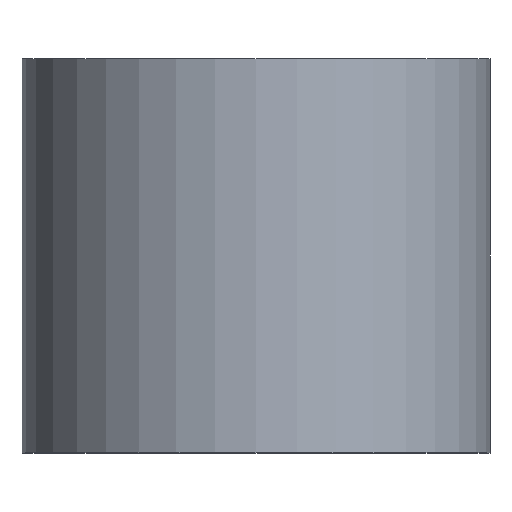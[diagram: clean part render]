
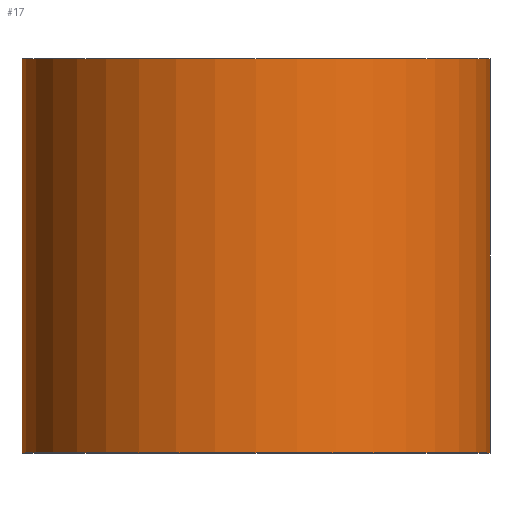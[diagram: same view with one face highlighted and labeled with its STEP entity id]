
A CAD part, top view. The second image highlights one B-rep face of the part: STEP entity #17.
In plain terms, the highlighted cylindrical face has radius 38 mm (diameter 76 mm), a full revolution.
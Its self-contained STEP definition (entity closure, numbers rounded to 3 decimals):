
#17 = ADVANCED_FACE('',(#18),#31,.T.);
#18 = FACE_BOUND('',#19,.T.);
#19 = EDGE_LOOP('',(#20,#54,#77,#104));
#20 = ORIENTED_EDGE('',*,*,#21,.F.);
#21 = EDGE_CURVE('',#22,#22,#24,.T.);
#22 = VERTEX_POINT('',#23);
#23 = CARTESIAN_POINT('',(38.,-32.,0.));
#24 = SURFACE_CURVE('',#25,(#30,#42),.PCURVE_S1.);
#25 = CIRCLE('',#26,38.);
#26 = AXIS2_PLACEMENT_3D('',#27,#28,#29);
#27 = CARTESIAN_POINT('',(0.,-32.,0.));
#28 = DIRECTION('',(0.,-1.,0.));
#29 = DIRECTION('',(1.,0.,0.));
#30 = PCURVE('',#31,#36);
#31 = CYLINDRICAL_SURFACE('',#32,38.);
#32 = AXIS2_PLACEMENT_3D('',#33,#34,#35);
#33 = CARTESIAN_POINT('',(0.,32.,0.));
#34 = DIRECTION('',(0.,-1.,0.));
#35 = DIRECTION('',(1.,0.,0.));
#36 = DEFINITIONAL_REPRESENTATION('',(#37),#41);
#37 = LINE('',#38,#39);
#38 = CARTESIAN_POINT('',(0.,64.));
#39 = VECTOR('',#40,1.);
#40 = DIRECTION('',(1.,0.));
#41 = ( GEOMETRIC_REPRESENTATION_CONTEXT(2) 
PARAMETRIC_REPRESENTATION_CONTEXT() REPRESENTATION_CONTEXT('2D SPACE',''
  ) );
#42 = PCURVE('',#43,#48);
#43 = PLANE('',#44);
#44 = AXIS2_PLACEMENT_3D('',#45,#46,#47);
#45 = CARTESIAN_POINT('',(0.,-32.,0.));
#46 = DIRECTION('',(0.,-1.,0.));
#47 = DIRECTION('',(1.,0.,0.));
#48 = DEFINITIONAL_REPRESENTATION('',(#49),#53);
#49 = CIRCLE('',#50,38.);
#50 = AXIS2_PLACEMENT_2D('',#51,#52);
#51 = CARTESIAN_POINT('',(0.,0.));
#52 = DIRECTION('',(1.,0.));
#53 = ( GEOMETRIC_REPRESENTATION_CONTEXT(2) 
PARAMETRIC_REPRESENTATION_CONTEXT() REPRESENTATION_CONTEXT('2D SPACE',''
  ) );
#54 = ORIENTED_EDGE('',*,*,#55,.F.);
#55 = EDGE_CURVE('',#56,#22,#58,.T.);
#56 = VERTEX_POINT('',#57);
#57 = CARTESIAN_POINT('',(38.,32.,0.));
#58 = SEAM_CURVE('',#59,(#63,#70),.PCURVE_S1.);
#59 = LINE('',#60,#61);
#60 = CARTESIAN_POINT('',(38.,32.,0.));
#61 = VECTOR('',#62,1.);
#62 = DIRECTION('',(0.,-1.,0.));
#63 = PCURVE('',#31,#64);
#64 = DEFINITIONAL_REPRESENTATION('',(#65),#69);
#65 = LINE('',#66,#67);
#66 = CARTESIAN_POINT('',(6.283,-0.));
#67 = VECTOR('',#68,1.);
#68 = DIRECTION('',(0.,1.));
#69 = ( GEOMETRIC_REPRESENTATION_CONTEXT(2) 
PARAMETRIC_REPRESENTATION_CONTEXT() REPRESENTATION_CONTEXT('2D SPACE',''
  ) );
#70 = PCURVE('',#31,#71);
#71 = DEFINITIONAL_REPRESENTATION('',(#72),#76);
#72 = LINE('',#73,#74);
#73 = CARTESIAN_POINT('',(0.,-0.));
#74 = VECTOR('',#75,1.);
#75 = DIRECTION('',(0.,1.));
#76 = ( GEOMETRIC_REPRESENTATION_CONTEXT(2) 
PARAMETRIC_REPRESENTATION_CONTEXT() REPRESENTATION_CONTEXT('2D SPACE',''
  ) );
#77 = ORIENTED_EDGE('',*,*,#78,.T.);
#78 = EDGE_CURVE('',#56,#56,#79,.T.);
#79 = SURFACE_CURVE('',#80,(#85,#92),.PCURVE_S1.);
#80 = CIRCLE('',#81,38.);
#81 = AXIS2_PLACEMENT_3D('',#82,#83,#84);
#82 = CARTESIAN_POINT('',(0.,32.,0.));
#83 = DIRECTION('',(0.,-1.,0.));
#84 = DIRECTION('',(1.,0.,0.));
#85 = PCURVE('',#31,#86);
#86 = DEFINITIONAL_REPRESENTATION('',(#87),#91);
#87 = LINE('',#88,#89);
#88 = CARTESIAN_POINT('',(0.,0.));
#89 = VECTOR('',#90,1.);
#90 = DIRECTION('',(1.,0.));
#91 = ( GEOMETRIC_REPRESENTATION_CONTEXT(2) 
PARAMETRIC_REPRESENTATION_CONTEXT() REPRESENTATION_CONTEXT('2D SPACE',''
  ) );
#92 = PCURVE('',#93,#98);
#93 = PLANE('',#94);
#94 = AXIS2_PLACEMENT_3D('',#95,#96,#97);
#95 = CARTESIAN_POINT('',(0.,32.,0.));
#96 = DIRECTION('',(0.,-1.,0.));
#97 = DIRECTION('',(1.,0.,0.));
#98 = DEFINITIONAL_REPRESENTATION('',(#99),#103);
#99 = CIRCLE('',#100,38.);
#100 = AXIS2_PLACEMENT_2D('',#101,#102);
#101 = CARTESIAN_POINT('',(0.,0.));
#102 = DIRECTION('',(1.,0.));
#103 = ( GEOMETRIC_REPRESENTATION_CONTEXT(2) 
PARAMETRIC_REPRESENTATION_CONTEXT() REPRESENTATION_CONTEXT('2D SPACE',''
  ) );
#104 = ORIENTED_EDGE('',*,*,#55,.T.);
